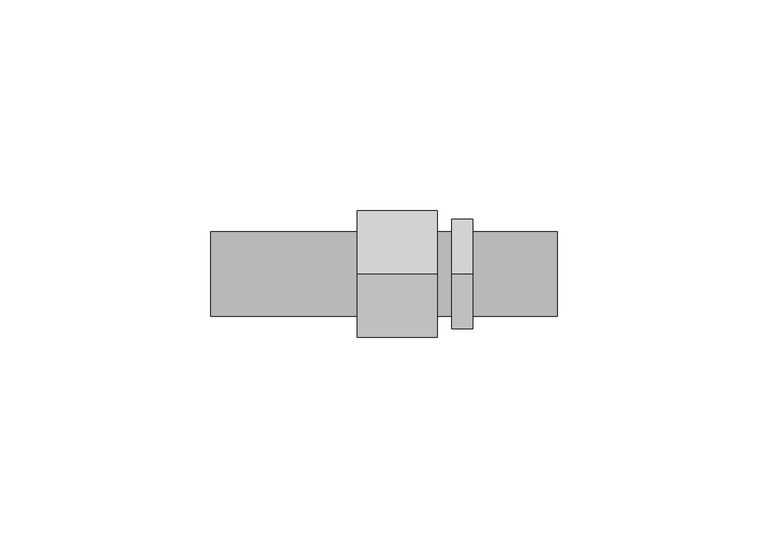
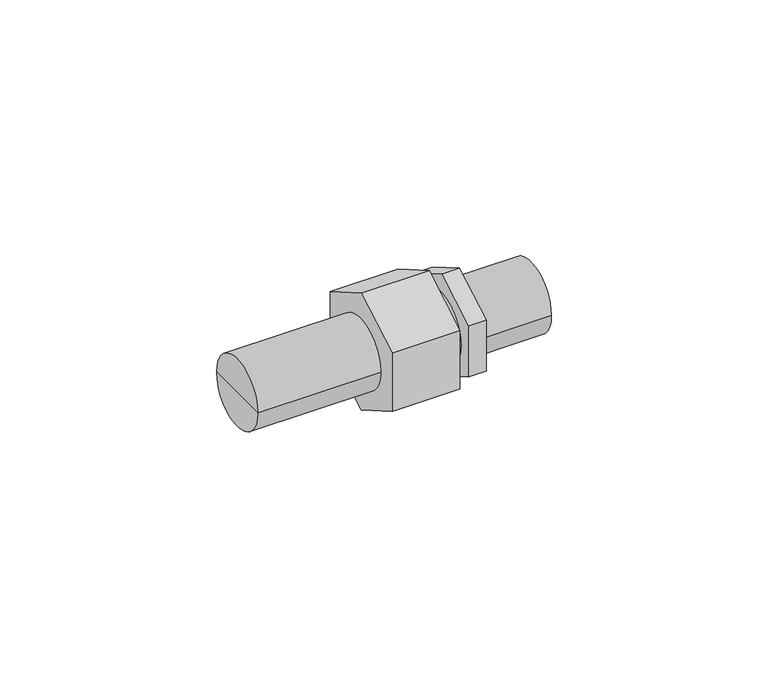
"""IFC4 building model written with IfcOpenShell, lengths in millimetres: pipe fitting geometry, KAN-therm PP holender : KAN-therm PP holender."""

from ifc_helpers import new_model, si_unit, frame, origin, place, context, project, spatial, polyline, circle_curve, outline, extrude, source, transform, mapped, element, save
from ifc_brep_helpers import plane_surface, cylinder_surface, advanced_brep


def pipe_fitting_9086a7c6(model_context):
    return source(origin(), model_context, "Body", "SolidModel", [
        extrude(outline(polyline([(0.0, -15.011107), (-13.0, -7.5055535), (-13.0, 7.5055535), (0.0, 15.011107), (13.0, 7.5055535), (13.0, -7.5055535), (0.0, -15.011107)])), frame((42.7, 0.0, 0.0), z_axis=(1.0, 0.0, 0.0), x_axis=(0.0, 1.0, 0.0)), (0.0, 0.0, 1.0), 5.0),
        extrude(outline(polyline([(0.0, -17.3205081), (-15.0, -8.660254), (-15.0, 8.660254), (0.0, 17.3205081), (15.0, 8.660254), (15.0, -8.660254), (0.0, -17.3205081)])), frame((20.2, 0.0, 0.0), z_axis=(1.0, 0.0, 0.0), x_axis=(0.0, 1.0, 0.0)), (0.0, 0.0, 1.0), 19.0),
        advanced_brep(
        [(-14.5, 0.0, 0.0), (-14.5, 10.0, 0.0), (-14.5, -10.0, 0.0), (20.2, -10.0, 0.0), (20.2, 10.0, 0.0), (20.2, 0.0, 0.0)],
        [
            (0, 1),
            (1, 2, circle_curve(frame((-14.5, 0.0, 0.0), z_axis=(-1.0, 0.0, 0.0), x_axis=(0.0, 1.0, 0.0)), 10.0)),
            (2, 0),
            (2, 1, circle_curve(frame((-14.5, 0.0, 0.0), z_axis=(-1.0, 0.0, 0.0), x_axis=(0.0, 1.0, 0.0)), 10.0)),
            (3, 4, circle_curve(frame((20.2, 0.0, 0.0), z_axis=(1.0, 0.0, 0.0), x_axis=(0.0, 1.0, 0.0)), 10.0)),
            (4, 5),
            (5, 3),
            (4, 3, circle_curve(frame((20.2, 0.0, 0.0), z_axis=(1.0, 0.0, 0.0), x_axis=(0.0, 1.0, 0.0)), 10.0)),
            (1, 4),
            (3, 2),
        ],
        [
            plane_surface(frame((-14.5, 0.0, 0.0), z_axis=(-1.0, 0.0, 0.0), x_axis=(0.0, 1.0, 0.0))),
            plane_surface(frame((20.2, 0.0, 0.0), z_axis=(1.0, 0.0, 0.0), x_axis=(0.0, 1.0, 0.0))),
            cylinder_surface(frame((2016.0, 0.0, 0.0), z_axis=(-1.0, 0.0, 0.0), x_axis=(0.0, 1.0, 0.0)), 10.0),
        ],
        [
            (0, [[1, 2, 3]]),
            (0, [[-3, 4, -1]]),
            (1, [[5, 6, 7]]),
            (1, [[8, -7, -6]]),
            (2, [[-2, 9, -5, 10]]),
            (2, [[-4, -10, -8, -9]]),
        ],
    ),
        advanced_brep(
        [(67.7, -10.0, 0.0), (67.7, 10.0, 0.0), (67.7, 0.0, 0.0), (39.2, -10.0, 0.0), (39.2, 10.0, 0.0), (39.2, 0.0, 0.0)],
        [
            (0, 1, circle_curve(frame((67.7, 0.0, 0.0), z_axis=(1.0, 0.0, 0.0), x_axis=(0.0, 1.0, 0.0)), 10.0)),
            (1, 2),
            (2, 0),
            (1, 0, circle_curve(frame((67.7, 0.0, 0.0), z_axis=(1.0, 0.0, 0.0), x_axis=(0.0, 1.0, 0.0)), 10.0)),
            (3, 4, circle_curve(frame((39.2, 0.0, 0.0), z_axis=(1.0, 0.0, 0.0), x_axis=(0.0, 1.0, 0.0)), 10.0)),
            (4, 1),
            (0, 3),
            (4, 3, circle_curve(frame((39.2, 0.0, 0.0), z_axis=(1.0, 0.0, 0.0), x_axis=(0.0, 1.0, 0.0)), 10.0)),
            (5, 4),
            (3, 5),
        ],
        [
            plane_surface(frame((67.7, 0.0, 0.0), z_axis=(1.0, 0.0, 0.0), x_axis=(0.0, 1.0, 0.0))),
            cylinder_surface(frame((1381.442668, 0.0, 0.0), z_axis=(-1.0, 0.0, 0.0), x_axis=(0.0, 1.0, 0.0)), 10.0),
            plane_surface(frame((39.2, 0.0, 0.0), z_axis=(-1.0, 0.0, 0.0), x_axis=(0.0, 1.0, 0.0))),
        ],
        [
            (0, [[1, 2, 3]]),
            (0, [[4, -3, -2]]),
            (1, [[5, 6, -1, 7]]),
            (1, [[8, -7, -4, -6]]),
            (2, [[9, -5, 10]]),
            (2, [[-10, -8, -9]]),
        ],
    ),
    ])


if __name__ == "__main__":
    model = new_model("IFC4")
    model_context = context("Model", 3, world=origin())
    ifc_project = project(units=[si_unit("LENGTHUNIT", "METRE", prefix="MILLI")], contexts=[model_context])
    site = spatial("IfcSite", under=ifc_project)
    building = spatial("IfcBuilding", under=site)
    placement = place(None, origin())
    pipe_fitting_shape = pipe_fitting_9086a7c6(model_context)
    element("IfcPipeFitting", 1, ObjectType="KAN-therm PP holender : KAN-therm PP holender", at=placement, inside=building, context=model_context, shape_type="MappedRepresentation", body=[
        mapped(pipe_fitting_shape, transform((0.0, 0.0, 0.0), x_axis=(1.0, 0.0, 0.0), y_axis=(0.0, 1.0, 0.0), z_axis=(0.0, 0.0, 1.0))),
    ])
    save(model, "model.ifc")
